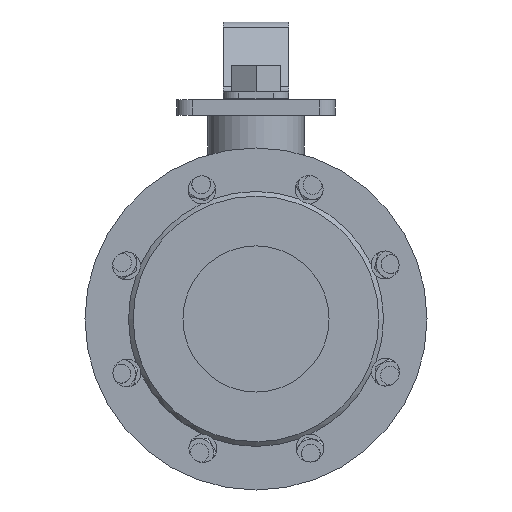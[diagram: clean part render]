
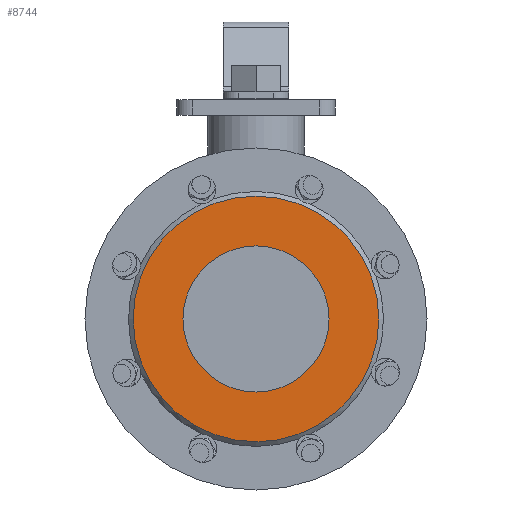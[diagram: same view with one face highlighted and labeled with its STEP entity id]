
A CAD part, left-side view. The second image highlights one B-rep face of the part: STEP entity #8744.
In plain terms, the highlighted planar face has unit normal (-1, 0, 0).
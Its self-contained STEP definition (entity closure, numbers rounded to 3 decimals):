
#8744=ADVANCED_FACE('',(#17089,#17091),#17093,.T.);
#17089=FACE_BOUND('',#17090,.T.);
#17090=EDGE_LOOP('',(#24172,#24173));
#17091=FACE_BOUND('',#17092,.T.);
#17092=EDGE_LOOP('',(#24174));
#17093=PLANE('',#17094);
#17094=AXIS2_PLACEMENT_3D('',#17095,#17096,#17097);
#17095=CARTESIAN_POINT('',(1559.378,1889.181,38.501));
#17096=DIRECTION('',(-1.,0.,0.));
#17097=DIRECTION('',(0.,-1.,0.));
#24172=ORIENTED_EDGE('',*,*,#27898,.F.);
#24173=ORIENTED_EDGE('',*,*,#27899,.F.);
#24174=ORIENTED_EDGE('',*,*,#27864,.T.);
#27864=EDGE_CURVE('',#32622,#32622,#32623,.T.);
#27898=EDGE_CURVE('',#32682,#32683,#32684,.T.);
#27899=EDGE_CURVE('',#32683,#32682,#32685,.T.);
#32622=VERTEX_POINT('',#42826);
#32623=CIRCLE('',#42827,47.);
#32682=VERTEX_POINT('',#43572);
#32683=VERTEX_POINT('',#43573);
#32684=CIRCLE('',#43574,79.);
#32685=CIRCLE('',#43578,79.);
#42826=CARTESIAN_POINT('',(1559.378,1889.181,-87.499));
#42827=AXIS2_PLACEMENT_3D('',#42828,#42829,#42830);
#42828=CARTESIAN_POINT('',(1559.378,1889.181,-40.499));
#42829=DIRECTION('',(1.,0.,0.));
#42830=DIRECTION('',(0.,0.,-1.));
#43572=CARTESIAN_POINT('',(1559.378,1966.986,-54.183));
#43573=CARTESIAN_POINT('',(1559.378,1889.181,38.501));
#43574=AXIS2_PLACEMENT_3D('',#43575,#43576,#43577);
#43575=CARTESIAN_POINT('',(1559.378,1889.181,-40.499));
#43576=DIRECTION('',(1.,0.,0.));
#43577=DIRECTION('',(0.,0.985,-0.173));
#43578=AXIS2_PLACEMENT_3D('',#43579,#43580,#43581);
#43579=CARTESIAN_POINT('',(1559.378,1889.181,-40.499));
#43580=DIRECTION('',(1.,0.,0.));
#43581=DIRECTION('',(0.,0.,1.));
